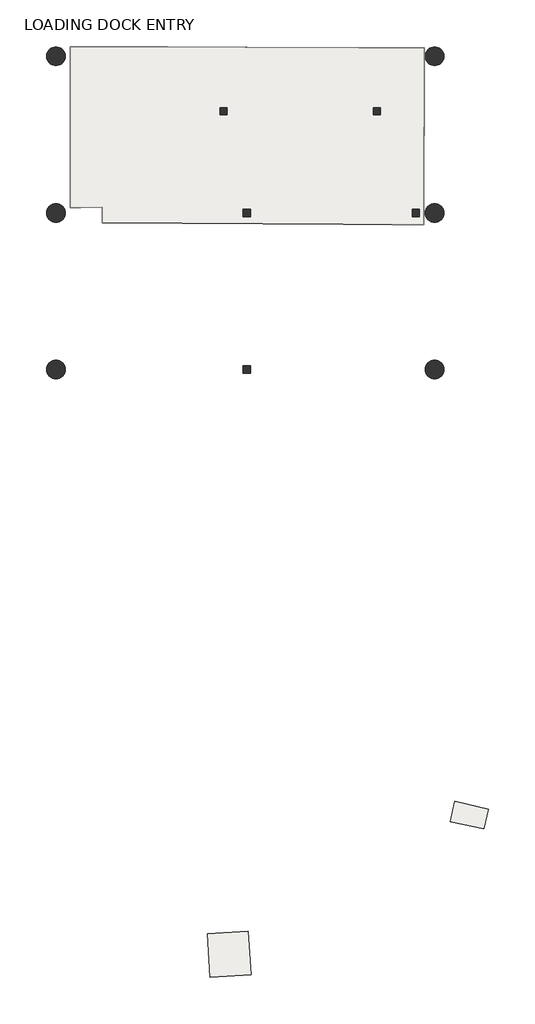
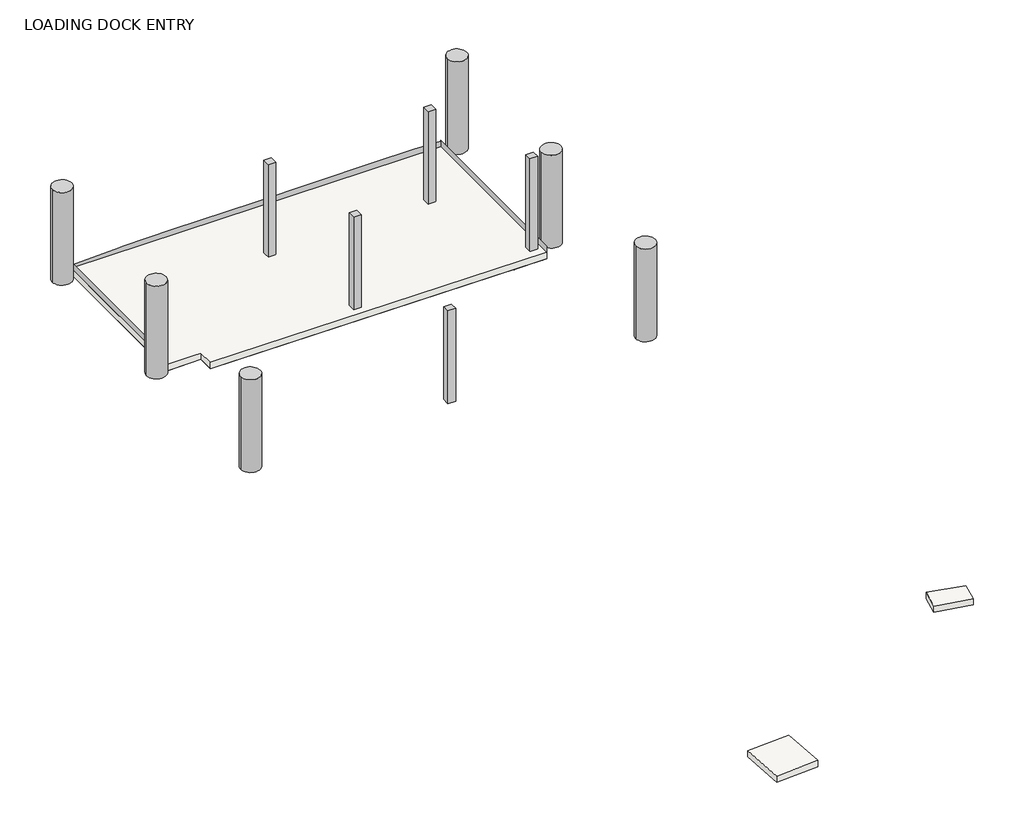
# One storey, incomplete: 11 columns, 3 slabs, 1 proxy.
"""IFC4 building model written with IfcOpenShell, lengths in millimetres."""

from ifc_helpers import new_model, si_unit, frame, origin, place, context, project, spatial, polyline, outline, extrude, triangles, transform, mapped, element, save
from components import column_f3eec772, column_a5302a6a

model = new_model("IFC4")

# Units and contexts
model_context = context("Model", 3, world=origin())
ifc_project = project(units=[si_unit("LENGTHUNIT", "METRE", prefix="MILLI")], contexts=[model_context])

# Site, building, storey
site = spatial("IfcSite", under=ifc_project)
building = spatial("IfcBuilding", under=site)
storey = spatial("IfcBuildingStorey", under=building, Name="LOADING DOCK ENTRY", Elevation=290080.7)

# Proxy
placement = place(None, origin())
element("IfcBuildingElementProxy", 1, Name="Building Element Proxy", at=placement, inside=storey, context=model_context, shape_type="Tessellation", body=[
    triangles([(39927.6419312, 214161.0487793, 289775.7449707), (39927.6419312, 214161.0487793, 290385.3449707), (39927.762854, 214202.999707, 289775.7449707), (39927.762854, 214202.999707, 290385.3449707), (39927.8233154, 214223.3147461, 289775.7449707), (39927.8233154, 214223.3147461, 290385.3449707), (39930.260376, 215059.635791, 289775.7449707), (39930.260376, 215059.635791, 290385.3449707), (39952.7101685, 222769.3419434, 289775.7449707), (39952.7101685, 222769.3419434, 290385.3449707)], [[1, 4, 2], [1, 3, 4], [3, 6, 4], [3, 5, 6], [5, 8, 6], [5, 7, 8], [7, 10, 8], [7, 9, 10]], closed=False),
    triangles([(22711.9415955, 214989.3703125, 289775.7449707), (22711.9415955, 214989.3703125, 290385.3449707), (22723.0502197, 222827.0686523, 289775.7449707), (22723.0502197, 222827.0686523, 290385.3449707)], [[1, 4, 2], [1, 3, 4]], closed=False),
    triangles([(39952.7101685, 222769.3419434, 289775.7449707), (39952.7101685, 222769.3419434, 290336.9944336), (38678.6297974, 222773.620752, 289775.7449707), (38678.6297974, 222773.620752, 290390.2190918), (36780.4735657, 222779.9831543, 289775.7449707), (36780.4735657, 222779.9831543, 290393.9211914), (31223.3778809, 222798.5866699, 289775.7449707), (31223.3778809, 222798.5866699, 290338.3896973), (27463.9166565, 222811.1998535, 289775.7449707), (27463.9166565, 222811.1998535, 290339.6175293), (25126.4709595, 222819.0319336, 289775.7449707), (25126.4709595, 222819.0319336, 290315.8980469), (24962.8530396, 222819.5714355, 289775.7449707), (24962.8530396, 222819.5714355, 290306.6707031), (22723.0502197, 222827.0686523, 289775.7449707), (22723.0502197, 222827.0686523, 290230.5265137)], [[1, 4, 2], [1, 3, 4], [3, 6, 4], [3, 5, 6], [5, 8, 6], [5, 7, 8], [7, 10, 8], [7, 9, 10], [9, 12, 10], [9, 11, 12], [11, 14, 12], [11, 13, 14], [13, 16, 14], [13, 15, 16]], closed=False),
    triangles([(39724.4450317, 214162.1463867, 289775.7449707), (39724.4450317, 214162.1463867, 289867.832373), (39726.6541992, 214162.1463867, 289775.7449707), (39726.6541992, 214162.1463867, 289867.8881836), (39757.0988525, 214161.9789551, 289775.7449707), (39757.0988525, 214161.9789551, 289867.6091309), (39922.5957275, 214161.0673828, 289775.7449707), (39922.5957275, 214161.0673828, 289873.3576172), (39927.6419312, 214161.0487793, 289775.7449707), (39927.6419312, 214161.0487793, 289873.4320313)], [[1, 4, 2], [1, 3, 4], [3, 6, 4], [3, 5, 6], [5, 8, 6], [5, 7, 8], [7, 10, 8], [7, 9, 10]], closed=False),
    triangles([(22711.9415955, 214989.3703125, 289775.7449707), (22711.9415955, 214989.3703125, 289892.723877), (23005.4841431, 214993.0166016, 289775.7449707), (23005.4841431, 214993.0166016, 289902.9), (23019.6507202, 214993.1840332, 289775.7449707), (23019.6507202, 214993.1840332, 289903.6999512), (23222.9824951, 214995.7141113, 289775.7449707), (23222.9824951, 214995.7141113, 289905.932373), (24259.4610901, 215008.5505371, 289775.7449707), (24259.4610901, 215008.5505371, 289906.4904785), (24268.7605225, 214258.1405273, 289775.7449707), (24268.7605225, 214258.1405273, 289864.8), (24268.9023743, 214246.6063477, 289775.7449707), (24268.9023743, 214246.6063477, 289864.8)], [[1, 4, 2], [1, 3, 4], [3, 6, 4], [3, 5, 6], [5, 8, 6], [5, 7, 8], [7, 10, 8], [7, 9, 10], [9, 12, 10], [9, 11, 12], [11, 14, 12], [11, 13, 14]], closed=False),
    triangles([(39952.7101685, 222769.3419434, 289775.7449707), (39952.7101685, 222769.3419434, 290336.9944336), (38678.6297974, 222773.620752, 289775.7449707), (38678.6297974, 222773.620752, 290390.2190918), (36780.4735657, 222779.9831543, 289775.7449707), (36780.4735657, 222779.9831543, 290393.9211914), (31223.3778809, 222798.5866699, 289775.7449707), (31223.3778809, 222798.5866699, 290338.3896973), (27463.9166565, 222811.1998535, 289775.7449707), (27463.9166565, 222811.1998535, 290339.6175293), (25126.4709595, 222819.0319336, 289775.7449707), (25126.4709595, 222819.0319336, 290315.8980469), (24962.8530396, 222819.5714355, 289775.7449707), (24962.8530396, 222819.5714355, 290306.6707031), (22723.0502197, 222827.0686523, 289775.7449707), (22723.0502197, 222827.0686523, 290230.5265137)], [[1, 4, 2], [1, 3, 4], [3, 6, 4], [3, 5, 6], [5, 8, 6], [5, 7, 8], [7, 10, 8], [7, 9, 10], [9, 12, 10], [9, 11, 12], [11, 14, 12], [11, 13, 14], [13, 16, 14], [13, 15, 16]], closed=False),
    triangles([(39724.4450317, 214162.1463867, 289775.7449707), (39724.4450317, 214162.1463867, 289867.832373), (39726.6541992, 214162.1463867, 289775.7449707), (39726.6541992, 214162.1463867, 289867.8881836), (39757.0988525, 214161.9789551, 289775.7449707), (39757.0988525, 214161.9789551, 289867.6091309), (39922.5957275, 214161.0673828, 289775.7449707), (39922.5957275, 214161.0673828, 289873.3576172), (39927.6419312, 214161.0487793, 289775.7449707), (39927.6419312, 214161.0487793, 289873.4320313)], [[1, 4, 2], [1, 3, 4], [3, 6, 4], [3, 5, 6], [5, 8, 6], [5, 7, 8], [7, 10, 8], [7, 9, 10]], closed=False),
    triangles([(22711.9415955, 214989.3703125, 289775.7449707), (22711.9415955, 214989.3703125, 289892.723877), (23005.4841431, 214993.0166016, 289775.7449707), (23005.4841431, 214993.0166016, 289902.9), (23019.6507202, 214993.1840332, 289775.7449707), (23019.6507202, 214993.1840332, 289903.6999512), (23222.9824951, 214995.7141113, 289775.7449707), (23222.9824951, 214995.7141113, 289905.932373), (24259.4610901, 215008.5505371, 289775.7449707), (24259.4610901, 215008.5505371, 289906.4904785), (24268.7605225, 214258.1405273, 289775.7449707), (24268.7605225, 214258.1405273, 289864.8), (24268.9023743, 214246.6063477, 289775.7449707), (24268.9023743, 214246.6063477, 289864.8)], [[1, 4, 2], [1, 3, 4], [3, 6, 4], [3, 5, 6], [5, 8, 6], [5, 7, 8], [7, 10, 8], [7, 9, 10], [9, 12, 10], [9, 11, 12], [11, 14, 12], [11, 13, 14]], closed=False),
    triangles([(39927.6419312, 214161.0487793, 289775.7449707), (39927.6419312, 214161.0487793, 290385.3449707), (39952.7101685, 222769.3419434, 289775.7449707), (39952.7101685, 222769.3419434, 290385.3449707)], [[1, 4, 2], [1, 3, 4]], closed=False),
    triangles([(22711.9415955, 214989.3703125, 289775.7449707), (22711.9415955, 214989.3703125, 290385.3449707), (22723.0502197, 222827.0686523, 289775.7449707), (22723.0502197, 222827.0686523, 290385.3449707)], [[1, 4, 2], [1, 3, 4]], closed=False),
    triangles([(39927.6419312, 214161.0487793, 289775.7449707), (39927.6419312, 214161.0487793, 290385.3449707), (39952.7101685, 222769.3419434, 289775.7449707), (39952.7101685, 222769.3419434, 290385.3449707)], [[1, 4, 2], [1, 3, 4]], closed=False),
    triangles([(22711.9415955, 214989.3703125, 289775.7449707), (22711.9415955, 214989.3703125, 290385.3449707), (22723.0502197, 222827.0686523, 289775.7449707), (22723.0502197, 222827.0686523, 290385.3449707)], [[1, 4, 2], [1, 3, 4]], closed=False),
    triangles([(39927.6419312, 214161.0487793, 289775.7449707), (39927.6419312, 214161.0487793, 290385.3449707), (39952.7101685, 222769.3419434, 289775.7449707), (39952.7101685, 222769.3419434, 290385.3449707)], [[1, 4, 2], [1, 3, 4]], closed=False),
    triangles([(22711.9415955, 214989.3703125, 289775.7449707), (22711.9415955, 214989.3703125, 290385.3449707), (22723.0502197, 222827.0686523, 289775.7449707), (22723.0502197, 222827.0686523, 290385.3449707)], [[1, 4, 2], [1, 3, 4]], closed=False),
    triangles([(39927.6419312, 214161.0487793, 289775.7449707), (39927.6419312, 214161.0487793, 290385.3449707), (39952.7101685, 222769.3419434, 289775.7449707), (39952.7101685, 222769.3419434, 290385.3449707)], [[1, 4, 2], [1, 3, 4]], closed=False),
    triangles([(22711.9415955, 214989.3703125, 289775.7449707), (22711.9415955, 214989.3703125, 290385.3449707), (22723.0502197, 222827.0686523, 289775.7449707), (22723.0502197, 222827.0686523, 290385.3449707)], [[1, 4, 2], [1, 3, 4]], closed=False),
    triangles([(39927.6419312, 214161.0487793, 289775.7449707), (39927.6419312, 214161.0487793, 290385.3449707), (39952.7101685, 222769.3419434, 289775.7449707), (39952.7101685, 222769.3419434, 290385.3449707)], [[1, 4, 2], [1, 3, 4]], closed=False),
    triangles([(22711.9415955, 214989.3703125, 289775.7449707), (22711.9415955, 214989.3703125, 290385.3449707), (22723.0502197, 222827.0686523, 289775.7449707), (22723.0502197, 222827.0686523, 290385.3449707)], [[1, 4, 2], [1, 3, 4]], closed=False),
    triangles([(38381.7339661, 214169.4947754, 289775.7449707), (38381.7339661, 214169.4947754, 289864.8), (39682.7964111, 214162.3696289, 289775.7449707), (39682.7964111, 214162.3696289, 289866.9952148), (39688.8890625, 214162.3510254, 289775.7449707), (39688.8890625, 214162.3510254, 289866.9766113), (39724.4450317, 214162.1463867, 289775.7449707), (39724.4450317, 214162.1463867, 289867.832373)], [[1, 4, 2], [1, 3, 4], [3, 6, 4], [3, 5, 6], [5, 8, 6], [5, 7, 8]], closed=False),
    triangles([(38381.7339661, 214169.4947754, 289775.7449707), (38381.7339661, 214169.4947754, 289864.8), (39682.7964111, 214162.3696289, 289775.7449707), (39682.7964111, 214162.3696289, 289866.9952148), (39688.8890625, 214162.3510254, 289775.7449707), (39688.8890625, 214162.3510254, 289866.9766113), (39724.4450317, 214162.1463867, 289775.7449707), (39724.4450317, 214162.1463867, 289867.832373)], [[1, 4, 2], [1, 3, 4], [3, 6, 4], [3, 5, 6], [5, 8, 6], [5, 7, 8]], closed=False),
    triangles([(39927.6419312, 214161.0487793, 289775.7449707), (39927.6419312, 214161.0487793, 290385.3449707), (39952.7101685, 222769.3419434, 289775.7449707), (39952.7101685, 222769.3419434, 290385.3449707)], [[1, 4, 2], [1, 3, 4]], closed=False),
    triangles([(22711.9415955, 214989.3703125, 289775.7449707), (22711.9415955, 214989.3703125, 290385.3449707), (22723.0502197, 222827.0686523, 289775.7449707), (22723.0502197, 222827.0686523, 290385.3449707)], [[1, 4, 2], [1, 3, 4]], closed=False),
    triangles([(24268.9023743, 214246.6063477, 289775.7449707), (39927.6419312, 214161.0487793, 289775.7449707), (39952.7101685, 222769.3419434, 289775.7449707), (22711.9415955, 222827.1058594, 289775.7449707), (22711.9415955, 214989.3703125, 289775.7449707), (24259.4610901, 215008.5505371, 289775.7449707)], [[4, 5, 6], [4, 6, 3], [2, 3, 6], [2, 6, 1]], closed=False),
])

# Columns
column_shape = column_f3eec772(model_context)
element("IfcColumn", 2, ObjectType="Rectangular Column : 14\"x14\"", at=placement, inside=storey, context=model_context, shape_type="MappedRepresentation", body=[
    mapped(column_shape, transform((31315.4615466, 214735.960969, 0.0), x_axis=(1.0, 0.0, 0.0), y_axis=(0.0, 1.0, 0.0), z_axis=(0.0, 0.0, 1.0))),
])
element("IfcColumn", 3, ObjectType="Rectangular Column : 14\"x14\"", at=placement, inside=storey, context=model_context, shape_type="MappedRepresentation", body=[
    mapped(column_shape, transform((30179.9680497, 219683.3613196, 0.0), x_axis=(1.0, 0.0, 0.0), y_axis=(0.0, 1.0, 0.0), z_axis=(0.0, 0.0, 1.0))),
])
element("IfcColumn", 4, ObjectType="Rectangular Column : 14\"x14\"", at=placement, inside=storey, context=model_context, shape_type="MappedRepresentation", body=[
    mapped(column_shape, transform((39545.0615466, 214735.960969, 0.0), x_axis=(1.0, 0.0, 0.0), y_axis=(0.0, 1.0, 0.0), z_axis=(0.0, 0.0, 1.0))),
])
element("IfcColumn", 5, ObjectType="Rectangular Column : 14\"x14\"", at=placement, inside=storey, context=model_context, shape_type="MappedRepresentation", body=[
    mapped(column_shape, transform((37647.5680497, 219683.3613196, 0.0), x_axis=(1.0, 0.0, 0.0), y_axis=(0.0, 1.0, 0.0), z_axis=(0.0, 0.0, 1.0))),
])
element("IfcColumn", 6, ObjectType="Rectangular Column : 14\"x14\"", at=placement, inside=storey, context=model_context, shape_type="MappedRepresentation", body=[
    mapped(column_shape, transform((31315.4615466, 207115.960969, 0.0), x_axis=(1.0, 0.0, 0.0), y_axis=(0.0, 1.0, 0.0), z_axis=(0.0, 0.0, 1.0))),
])
column_2_shape = column_a5302a6a(model_context)
element("IfcColumn", 7, ObjectType="Round Column : 36\"", at=placement, inside=storey, context=model_context, shape_type="MappedRepresentation", body=[
    mapped(column_2_shape, transform((22019.0615466, 214735.960969, 0.0), x_axis=(1.0, 0.0, 0.0), y_axis=(0.0, 1.0, 0.0), z_axis=(0.0, 0.0, 1.0))),
])
element("IfcColumn", 8, ObjectType="Round Column : 36\"", at=placement, inside=storey, context=model_context, shape_type="MappedRepresentation", body=[
    mapped(column_2_shape, transform((40459.4615466, 214735.960969, 0.0), x_axis=(1.0, 0.0, 0.0), y_axis=(0.0, 1.0, 0.0), z_axis=(0.0, 0.0, 1.0))),
])
element("IfcColumn", 9, ObjectType="Round Column : 36\"", at=placement, inside=storey, context=model_context, shape_type="MappedRepresentation", body=[
    mapped(column_2_shape, transform((22019.0615466, 222355.960969, 0.0), x_axis=(1.0, 0.0, 0.0), y_axis=(0.0, 1.0, 0.0), z_axis=(0.0, 0.0, 1.0))),
])
element("IfcColumn", 10, ObjectType="Round Column : 36\"", at=placement, inside=storey, context=model_context, shape_type="MappedRepresentation", body=[
    mapped(column_2_shape, transform((40459.4615466, 222355.960969, 0.0), x_axis=(1.0, 0.0, 0.0), y_axis=(0.0, 1.0, 0.0), z_axis=(0.0, 0.0, 1.0))),
])
element("IfcColumn", 11, ObjectType="Round Column : 36\"", at=placement, inside=storey, context=model_context, shape_type="MappedRepresentation", body=[
    mapped(column_2_shape, transform((22019.0615466, 207115.960969, 0.0), x_axis=(1.0, 0.0, 0.0), y_axis=(0.0, 1.0, 0.0), z_axis=(0.0, 0.0, 1.0))),
])
element("IfcColumn", 12, ObjectType="Round Column : 36\"", at=placement, inside=storey, context=model_context, shape_type="MappedRepresentation", body=[
    mapped(column_2_shape, transform((40459.4615466, 207115.960969, 0.0), x_axis=(1.0, 0.0, 0.0), y_axis=(0.0, 1.0, 0.0), z_axis=(0.0, 0.0, 1.0))),
])

# Slabs
element("IfcSlab", 13, ObjectType="Pad 1", at=placement, inside=storey, context=model_context, shape_type="SweptSolid", body=[
    extrude(outline(polyline([(29514.0404684, 177551.4770577), (29399.6886791, 179682.6393887), (31378.8659993, 179799.2030193), (31515.3164617, 177676.2896253), (29514.0404684, 177551.4770577)])), frame((0.0, 0.0, 289775.9), z_axis=(0.0, 0.0, 1.0), x_axis=(1.0, 0.0, 0.0)), (0.0, 0.0, 1.0), 304.8),
])
element("IfcSlab", 14, ObjectType="Pad 1", at=placement, inside=storey, context=model_context, shape_type="SweptSolid", body=[
    extrude(outline(polyline([(41230.3039354, 185133.9726351), (41448.6954024, 186119.9108055), (43066.956613, 185724.25722), (42861.1489941, 184782.1561439), (41230.3039354, 185133.9726351)])), frame((0.0, 0.0, 289471.1), z_axis=(0.0, 0.0, 1.0), x_axis=(1.0, 0.0, 0.0)), (0.0, 0.0, 1.0), 304.8),
])
element("IfcSlab", 15, ObjectType="Pad 1", at=placement, inside=storey, context=model_context, shape_type="SweptSolid", body=[
    extrude(outline(polyline([(24268.9028623, 214246.6135018), (24259.4605238, 215008.5549975), (22711.9408749, 214989.3774037), (22711.9408749, 222827.1140077), (39952.710074, 222769.3467425), (39927.6414243, 214161.0399563), (24268.9028623, 214246.6135018)])), frame((0.0, 0.0, 289775.9), z_axis=(0.0, 0.0, 1.0), x_axis=(1.0, 0.0, 0.0)), (0.0, 0.0, 1.0), 304.8),
])

save(model, "model.ifc")
